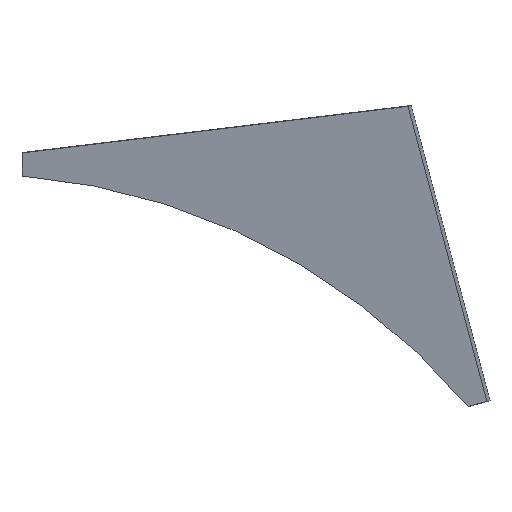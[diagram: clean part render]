
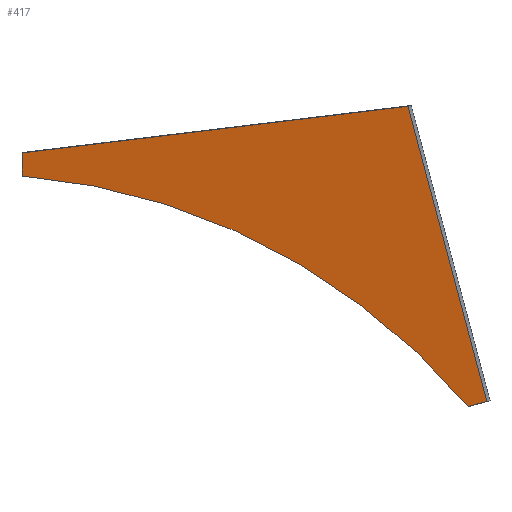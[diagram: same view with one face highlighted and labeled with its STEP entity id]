
A CAD part, front view. The second image highlights one B-rep face of the part: STEP entity #417.
In plain terms, the highlighted planar face has unit normal (-0.203, -0.978, -0.047).
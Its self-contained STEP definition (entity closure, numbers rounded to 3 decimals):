
#32 = PLANE('',#33);
#33 = AXIS2_PLACEMENT_3D('',#34,#35,#36);
#34 = CARTESIAN_POINT('',(-543.689,-39.034,
    -495.754));
#35 = DIRECTION('',(-0.125,-0.022,0.992)
  );
#36 = DIRECTION('',(0.971,-0.207,0.117));
#57 = VERTEX_POINT('',#58);
#58 = CARTESIAN_POINT('',(-669.417,-12.268,
    -510.954));
#72 = PLANE('',#73);
#73 = AXIS2_PLACEMENT_3D('',#74,#75,#76);
#74 = CARTESIAN_POINT('',(-669.381,-11.915,-518.5
    ));
#75 = DIRECTION('',(-0.979,0.203,0.005)
  );
#76 = DIRECTION('',(0.005,0.047,
    -0.999));
#84 = EDGE_CURVE('',#57,#85,#87,.T.);
#85 = VERTEX_POINT('',#86);
#86 = CARTESIAN_POINT('',(-417.961,-65.8,
    -480.554));
#87 = SURFACE_CURVE('',#88,(#92,#99),.PCURVE_S1.);
#88 = LINE('',#89,#90);
#89 = CARTESIAN_POINT('',(-669.417,-12.268,
    -510.954));
#90 = VECTOR('',#91,1.);
#91 = DIRECTION('',(0.971,-0.207,0.117));
#92 = PCURVE('',#32,#93);
#93 = DEFINITIONAL_REPRESENTATION('',(#94),#98);
#94 = LINE('',#95,#96);
#95 = CARTESIAN_POINT('',(-129.441,0.));
#96 = VECTOR('',#97,1.);
#97 = DIRECTION('',(1.,0.));
#98 = ( GEOMETRIC_REPRESENTATION_CONTEXT(2) 
PARAMETRIC_REPRESENTATION_CONTEXT() REPRESENTATION_CONTEXT('2D SPACE',''
  ) );
#99 = PCURVE('',#100,#105);
#100 = PLANE('',#101);
#101 = AXIS2_PLACEMENT_3D('',#102,#103,#104);
#102 = CARTESIAN_POINT('',(-495.206,-46.26,
    -554.634));
#103 = DIRECTION('',(0.203,0.978,0.047)
  );
#104 = DIRECTION('',(-0.005,-0.047,
    0.999));
#105 = DEFINITIONAL_REPRESENTATION('',(#106),#110);
#106 = LINE('',#107,#108);
#107 = CARTESIAN_POINT('',(42.877,-177.692));
#108 = VECTOR('',#109,1.);
#109 = DIRECTION('',(0.122,0.992));
#110 = ( GEOMETRIC_REPRESENTATION_CONTEXT(2) 
PARAMETRIC_REPRESENTATION_CONTEXT() REPRESENTATION_CONTEXT('2D SPACE',''
  ) );
#126 = PLANE('',#127);
#127 = AXIS2_PLACEMENT_3D('',#128,#129,#130);
#128 = CARTESIAN_POINT('',(-392.269,-66.523,
    -576.73));
#129 = DIRECTION('',(0.945,-0.208,0.254));
#130 = DIRECTION('',(-0.258,0.007,0.966)
  );
#165 = VERTEX_POINT('',#166);
#166 = CARTESIAN_POINT('',(-669.345,-11.561,
    -526.047));
#180 = CYLINDRICAL_SURFACE('',#181,433.994);
#181 = AXIS2_PLACEMENT_3D('',#182,#183,#184);
#182 = CARTESIAN_POINT('',(-698.798,15.202,
    -958.213));
#183 = DIRECTION('',(0.203,0.978,0.047)
  );
#184 = DIRECTION('',(0.979,-0.203,-0.005
    ));
#192 = EDGE_CURVE('',#165,#57,#193,.T.);
#193 = SURFACE_CURVE('',#194,(#198,#205),.PCURVE_S1.);
#194 = LINE('',#195,#196);
#195 = CARTESIAN_POINT('',(-669.345,-11.561,
    -526.047));
#196 = VECTOR('',#197,1.);
#197 = DIRECTION('',(-0.005,-0.047,
    0.999));
#198 = PCURVE('',#72,#199);
#199 = DEFINITIONAL_REPRESENTATION('',(#200),#204);
#200 = LINE('',#201,#202);
#201 = CARTESIAN_POINT('',(7.555,0.));
#202 = VECTOR('',#203,1.);
#203 = DIRECTION('',(-1.,0.));
#204 = ( GEOMETRIC_REPRESENTATION_CONTEXT(2) 
PARAMETRIC_REPRESENTATION_CONTEXT() REPRESENTATION_CONTEXT('2D SPACE',''
  ) );
#205 = PCURVE('',#100,#206);
#206 = DEFINITIONAL_REPRESENTATION('',(#207),#211);
#207 = LINE('',#208,#209);
#208 = CARTESIAN_POINT('',(27.767,-177.692));
#209 = VECTOR('',#210,1.);
#210 = DIRECTION('',(1.,0.));
#211 = ( GEOMETRIC_REPRESENTATION_CONTEXT(2) 
PARAMETRIC_REPRESENTATION_CONTEXT() REPRESENTATION_CONTEXT('2D SPACE',''
  ) );
#218 = EDGE_CURVE('',#165,#219,#221,.T.);
#219 = VERTEX_POINT('',#220);
#220 = CARTESIAN_POINT('',(-378.734,-64.571,
    -676.172));
#221 = SURFACE_CURVE('',#222,(#227,#234),.PCURVE_S1.);
#222 = CIRCLE('',#223,433.994);
#223 = AXIS2_PLACEMENT_3D('',#224,#225,#226);
#224 = CARTESIAN_POINT('',(-698.798,15.202,
    -958.213));
#225 = DIRECTION('',(0.203,0.978,0.047)
  );
#226 = DIRECTION('',(0.979,-0.203,-0.005
    ));
#227 = PCURVE('',#180,#228);
#228 = DEFINITIONAL_REPRESENTATION('',(#229),#233);
#229 = LINE('',#230,#231);
#230 = CARTESIAN_POINT('',(0.,0.));
#231 = VECTOR('',#232,1.);
#232 = DIRECTION('',(1.,0.));
#233 = ( GEOMETRIC_REPRESENTATION_CONTEXT(2) 
PARAMETRIC_REPRESENTATION_CONTEXT() REPRESENTATION_CONTEXT('2D SPACE',''
  ) );
#234 = PCURVE('',#100,#235);
#235 = DEFINITIONAL_REPRESENTATION('',(#236),#240);
#236 = CIRCLE('',#237,433.994);
#237 = AXIS2_PLACEMENT_2D('',#238,#239);
#238 = CARTESIAN_POINT('',(-405.032,-209.886));
#239 = DIRECTION('',(0.,1.));
#240 = ( GEOMETRIC_REPRESENTATION_CONTEXT(2) 
PARAMETRIC_REPRESENTATION_CONTEXT() REPRESENTATION_CONTEXT('2D SPACE',''
  ) );
#258 = PLANE('',#259);
#259 = AXIS2_PLACEMENT_3D('',#260,#261,#262);
#260 = CARTESIAN_POINT('',(-372.656,-65.908,
    -674.539));
#261 = DIRECTION('',(0.258,-0.007,-0.966
    ));
#262 = DIRECTION('',(-0.945,0.208,-0.254));
#319 = VERTEX_POINT('',#320);
#320 = CARTESIAN_POINT('',(-366.578,-67.245,
    -672.905));
#341 = EDGE_CURVE('',#319,#219,#342,.T.);
#342 = SURFACE_CURVE('',#343,(#347,#354),.PCURVE_S1.);
#343 = LINE('',#344,#345);
#344 = CARTESIAN_POINT('',(-366.578,-67.245,
    -672.905));
#345 = VECTOR('',#346,1.);
#346 = DIRECTION('',(-0.945,0.208,-0.254));
#347 = PCURVE('',#258,#348);
#348 = DEFINITIONAL_REPRESENTATION('',(#349),#353);
#349 = LINE('',#350,#351);
#350 = CARTESIAN_POINT('',(-6.434,0.));
#351 = VECTOR('',#352,1.);
#352 = DIRECTION('',(1.,0.));
#353 = ( GEOMETRIC_REPRESENTATION_CONTEXT(2) 
PARAMETRIC_REPRESENTATION_CONTEXT() REPRESENTATION_CONTEXT('2D SPACE',''
  ) );
#354 = PCURVE('',#100,#355);
#355 = DEFINITIONAL_REPRESENTATION('',(#356),#360);
#356 = LINE('',#357,#358);
#357 = CARTESIAN_POINT('',(-117.775,130.778));
#358 = VECTOR('',#359,1.);
#359 = DIRECTION('',(-0.259,-0.966));
#360 = ( GEOMETRIC_REPRESENTATION_CONTEXT(2) 
PARAMETRIC_REPRESENTATION_CONTEXT() REPRESENTATION_CONTEXT('2D SPACE',''
  ) );
#388 = EDGE_CURVE('',#85,#319,#389,.T.);
#389 = SURFACE_CURVE('',#390,(#394,#401),.PCURVE_S1.);
#390 = LINE('',#391,#392);
#391 = CARTESIAN_POINT('',(-417.961,-65.8,
    -480.554));
#392 = VECTOR('',#393,1.);
#393 = DIRECTION('',(0.258,-0.007,-0.966
    ));
#394 = PCURVE('',#126,#395);
#395 = DEFINITIONAL_REPRESENTATION('',(#396),#400);
#396 = LINE('',#397,#398);
#397 = CARTESIAN_POINT('',(99.55,0.));
#398 = VECTOR('',#399,1.);
#399 = DIRECTION('',(-1.,0.));
#400 = ( GEOMETRIC_REPRESENTATION_CONTEXT(2) 
PARAMETRIC_REPRESENTATION_CONTEXT() REPRESENTATION_CONTEXT('2D SPACE',''
  ) );
#401 = PCURVE('',#100,#402);
#402 = DEFINITIONAL_REPRESENTATION('',(#403),#407);
#403 = LINE('',#404,#405);
#404 = CARTESIAN_POINT('',(74.542,79.247));
#405 = VECTOR('',#406,1.);
#406 = DIRECTION('',(-0.966,0.259));
#407 = ( GEOMETRIC_REPRESENTATION_CONTEXT(2) 
PARAMETRIC_REPRESENTATION_CONTEXT() REPRESENTATION_CONTEXT('2D SPACE',''
  ) );
#417 = ADVANCED_FACE('',(#418),#100,.F.);
#418 = FACE_BOUND('',#419,.T.);
#419 = EDGE_LOOP('',(#420,#421,#422,#423,#424));
#420 = ORIENTED_EDGE('',*,*,#388,.F.);
#421 = ORIENTED_EDGE('',*,*,#84,.F.);
#422 = ORIENTED_EDGE('',*,*,#192,.F.);
#423 = ORIENTED_EDGE('',*,*,#218,.T.);
#424 = ORIENTED_EDGE('',*,*,#341,.F.);
